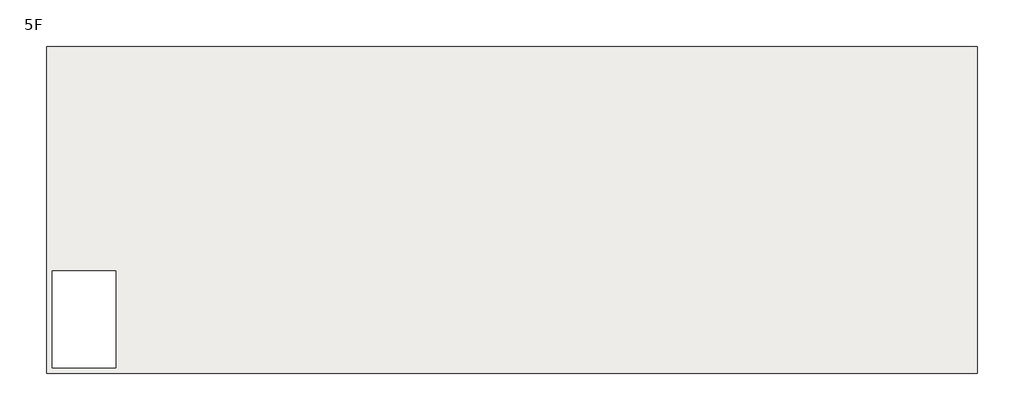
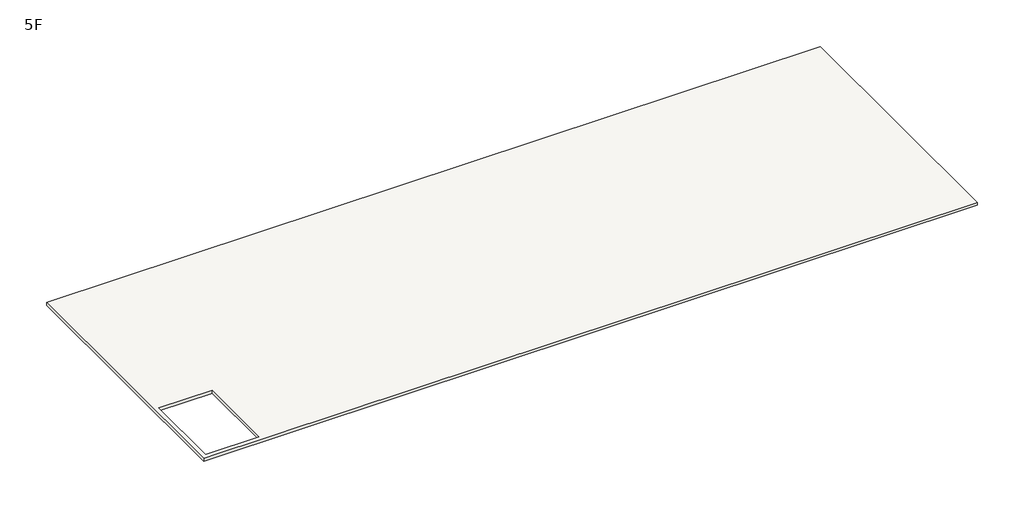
# One storey: 1 slab.
"""IFC4 building model written with IfcOpenShell, lengths in millimetres."""

from ifc_helpers import new_model, si_unit, frame, origin, place, context, project, spatial, polyline, outline, extrude, element, save

model = new_model("IFC4")

# Units and contexts
model_context = context("Model", 3, world=origin())
ifc_project = project(units=[si_unit("LENGTHUNIT", "METRE", prefix="MILLI")], contexts=[model_context])

# Site, building, storey
site = spatial("IfcSite", under=ifc_project)
building = spatial("IfcBuilding", under=site)
storey = spatial("IfcBuildingStorey", under=building, Name="5F", Elevation=15300.0)

# Slab
placement = place(None, origin())
element("IfcSlab", 1, ObjectType="常规 - 150mm", at=placement, inside=storey, context=model_context, shape_type="SweptSolid", body=[
    extrude(outline(polyline([(31359.5620884, 8888.8697102), (31359.5620884, -5251.1302898), (-8880.4379116, -5251.1302898), (-8880.4379116, 8888.8697102), (31359.5620884, 8888.8697102)]), holes=[polyline([(-8640.4379116, -821.1302898), (-8640.4379116, -5011.1302898), (-5880.4379116, -5011.1302898), (-5880.4379116, -821.1302898), (-8640.4379116, -821.1302898)])]), frame((0.0, 0.0, 15150.0), z_axis=(0.0, 0.0, 1.0), x_axis=(1.0, 0.0, 0.0)), (0.0, 0.0, 1.0), 150.0),
])

save(model, "model.ifc")
